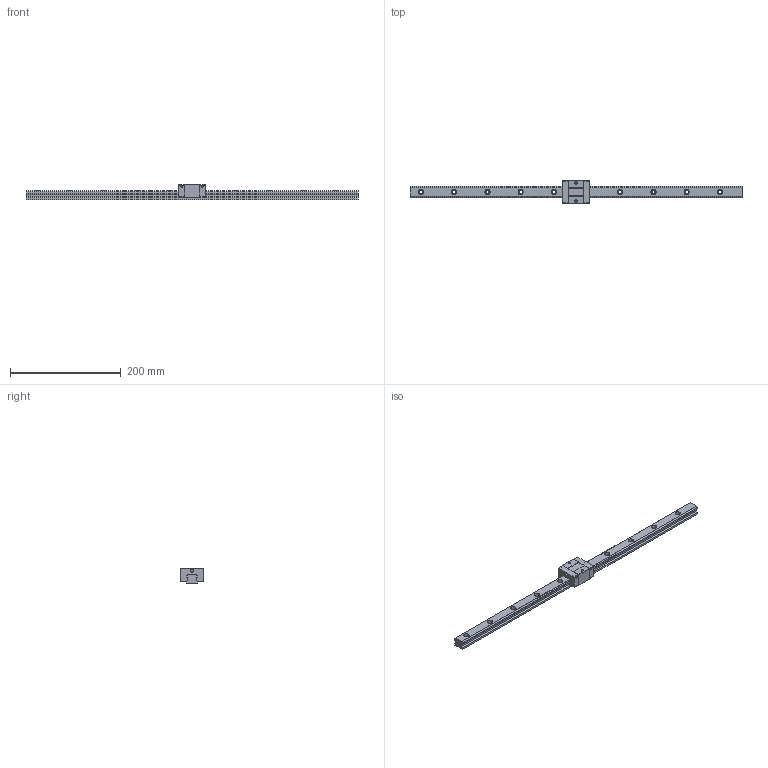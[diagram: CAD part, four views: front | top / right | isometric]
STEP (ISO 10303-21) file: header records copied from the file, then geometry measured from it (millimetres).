
FILE_DESCRIPTION (( 'STEP AP203' ), '1' );
FILE_NAME ('TRS20VS-XN.STEP', '2024-06-12T07:55:30', ( '' ), ( '' ), 'SwSTEP 2.0', 'SolidWorks 2022', '' );
FILE_SCHEMA (( 'CONFIG_CONTROL_DESIGN' ));
Length unit declared in the file: millimetre
Products named in the file (1): TRS20VS-XN
Bounding box: 600 x 42 x 28 mm (x, y, z)
Volume: 205172.2 mm3; surface area: 58981.7 mm2
Topology: 2 solids, 2 shells, 186 faces, 484 edges, 320 vertices
Faces by surface type: plane 94, cylinder 92
Entity records: 5863 total; most frequent: DIRECTION 1042, CARTESIAN_POINT 991, ORIENTED_EDGE 968, EDGE_CURVE 484, AXIS2_PLACEMENT_3D 371, VERTEX_POINT 320, LINE 300, VECTOR 300
